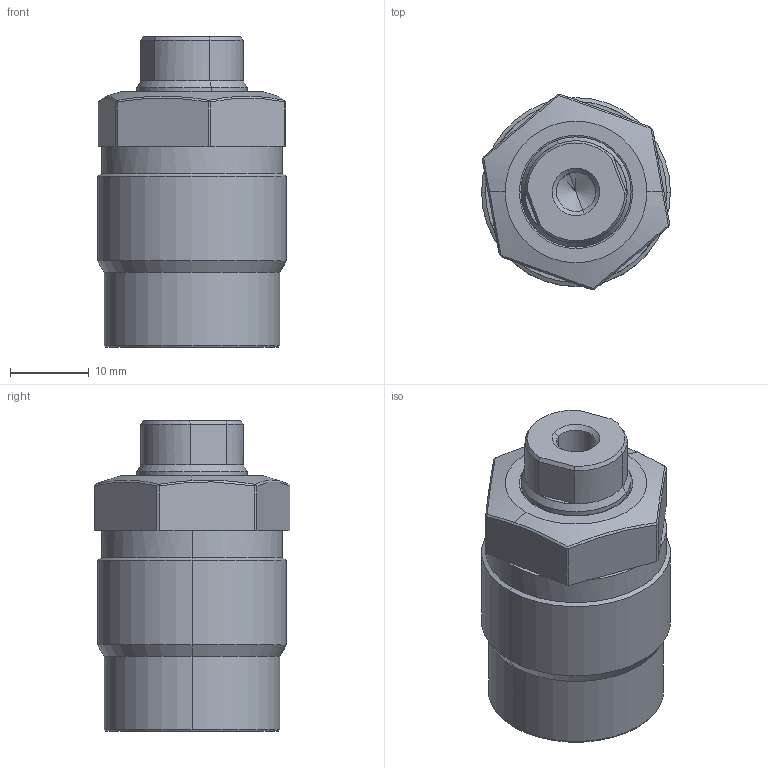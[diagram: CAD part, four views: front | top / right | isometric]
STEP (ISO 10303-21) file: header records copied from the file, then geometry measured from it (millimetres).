
FILE_DESCRIPTION (( 'STEP AP214' ), '1' );
FILE_NAME ('TO3C-M242-S.STEP', '2020-07-09T04:51:36', ( '' ), ( '' ), 'SwSTEP 2.0', 'SolidWorks 2019', '' );
FILE_SCHEMA (( 'AUTOMOTIVE_DESIGN' ));
Length unit declared in the file: millimetre
Products named in the file (3): TO3C-M242-S; M242-S-PLUNGER; TO3C-M242-S-BODY
Assembly tree (2 placements, depth 2):
  TO3C-M242-S
    TO3C-M242-S-BODY
    M242-S-PLUNGER
Bounding box: 24 x 24.87 x 39.5 mm (x, y, z)
Volume: 12819.2 mm3; surface area: 5995.1 mm2
Topology: 2 solids, 2 shells, 87 faces, 196 edges, 116 vertices
Faces by surface type: plane 38, cone 23, cylinder 20, bspline 6
Entity records: 3285 total; most frequent: CARTESIAN_POINT 1244, DIRECTION 401, ORIENTED_EDGE 388, EDGE_CURVE 194, AXIS2_PLACEMENT_3D 157, VERTEX_POINT 116, EDGE_LOOP 92, VECTOR 87
